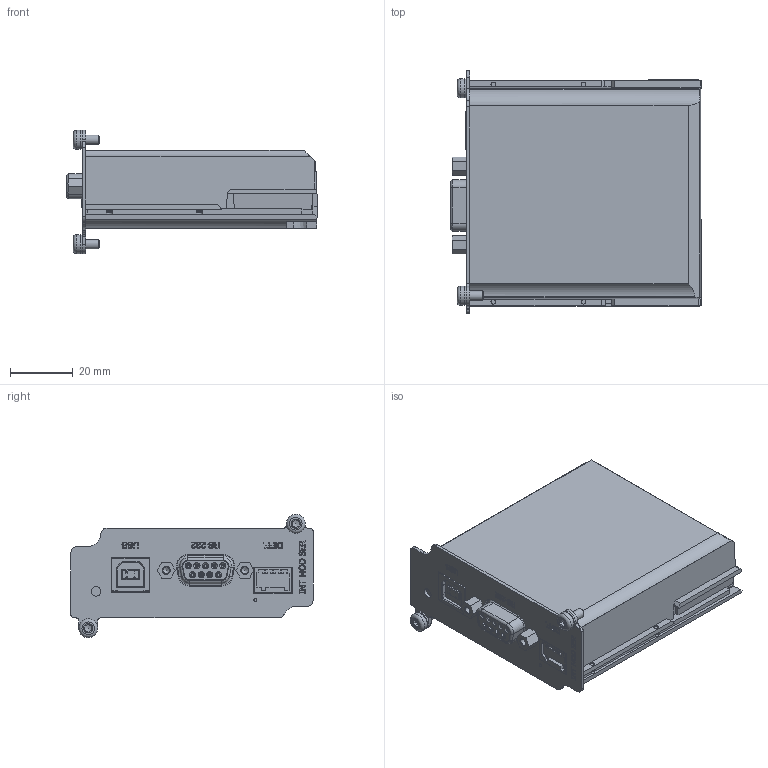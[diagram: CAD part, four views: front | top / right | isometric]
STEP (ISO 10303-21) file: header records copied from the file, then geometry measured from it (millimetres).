
FILE_DESCRIPTION(/* description */ (''),/* implementation_level */ '2;1');
FILE_NAME(/* name */ 'A:\Data\Interfaces\presentations\interf int mod serial\int mod ser.stp',/* time_stamp */ '2021-01-12T13:28:41+01:00',/* author */ ('Delta'),/* organization */ (''),/* preprocessor_version */ 'ST-DEVELOPER v17.2',/* originating_system */ 'Autodesk Inventor 2019',/* authorisation */ '');
FILE_SCHEMA (('AUTOMOTIVE_DESIGN { 1 0 10303 214 3 1 1 }'));
Products named in the file (1): Assembly Interface serial_Shrinkwrap_1
Bounding box: 79.8 x 77 x 39.2 mm (x, y, z)
Volume: 113346.3 mm3; surface area: 25747.8 mm2
Topology: 1 solids, 1 shells, 1241 faces, 3389 edges, 2224 vertices
Faces by surface type: plane 870, bspline 224, cylinder 92, cone 35, torus 20
Full cylindrical faces by diameter (mm): 1 x1, 1.06 x9, 2.156 x2, 3 x3, 3.2 x2, 3.5 x2, 6 x4
Entity records: 59749 total; most frequent: CARTESIAN_POINT 28715, ORIENTED_EDGE 6772, DIRECTION 5302, EDGE_CURVE 3386, LINE 2510, VECTOR 2510, VERTEX_POINT 2225, AXIS2_PLACEMENT_3D 1396
